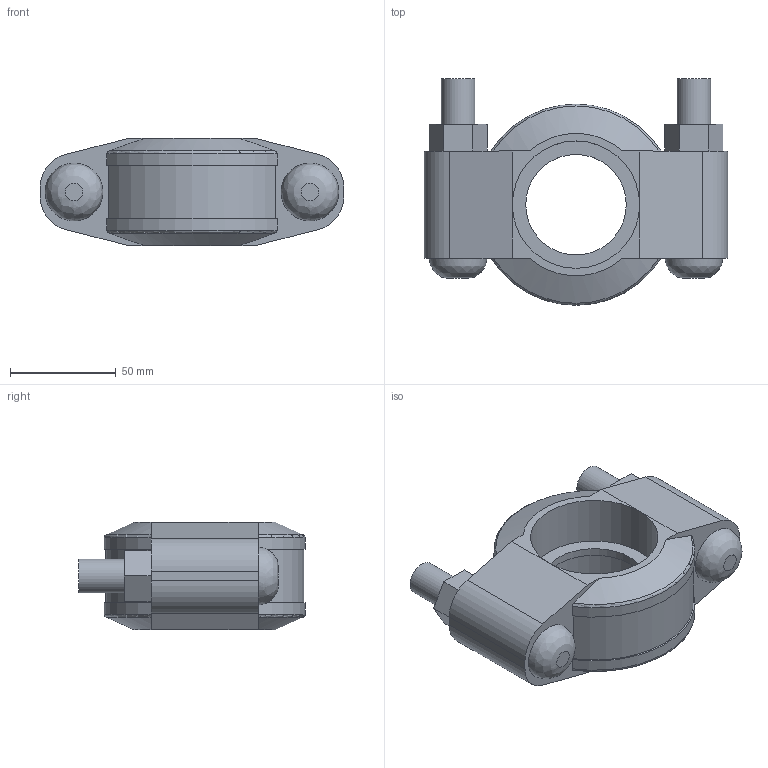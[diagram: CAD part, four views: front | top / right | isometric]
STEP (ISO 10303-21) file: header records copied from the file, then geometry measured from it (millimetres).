
FILE_DESCRIPTION(/* description */ ('VIC CPLG RGD IR STYLE HP-170 (ESG)'),/* implementation_level */ '2;1');
FILE_NAME(/* name */ 'C:\Files for Export\HP-170\STEP\Victaulic_IPS-EndSeal_Cplg Rgd_IR_Style HP-170 (ESG)\Victaulic_IPS-EndSeal_Cplg Rgd_IR_Style HP-170 (ESG)_2 (50).stp',/* time_stamp */ '2023-12-19T11:33:15+01:00',/* author */ ('CONSTRUCTION PIPING SERVICES'),/* organization */ ('Victaulic'),/* preprocessor_version */ 'ST-DEVELOPER v18.1',/* originating_system */ 'Autodesk Inventor 2020',/* authorisation */ '');
FILE_SCHEMA (('AUTOMOTIVE_DESIGN { 1 0 10303 214 3 1 1 }'));
Length unit declared in the file: inch
Products named in the file (1): HP-170-02.0
Bounding box: 143.76 x 107.31 x 50.8 mm (x, y, z)
Volume: 305737.5 mm3; surface area: 58013 mm2
Topology: 1 solids, 3 shells, 77 faces, 195 edges, 130 vertices
Faces by surface type: plane 46, cylinder 21, torus 4, cone 4, bspline 2
Full cylindrical faces by diameter (mm): 15.875 x4, 47.625 x1, 60.325 x2
Entity records: 2555 total; most frequent: CARTESIAN_POINT 527, DIRECTION 395, ORIENTED_EDGE 390, EDGE_CURVE 195, AXIS2_PLACEMENT_3D 140, VERTEX_POINT 130, LINE 115, VECTOR 115
